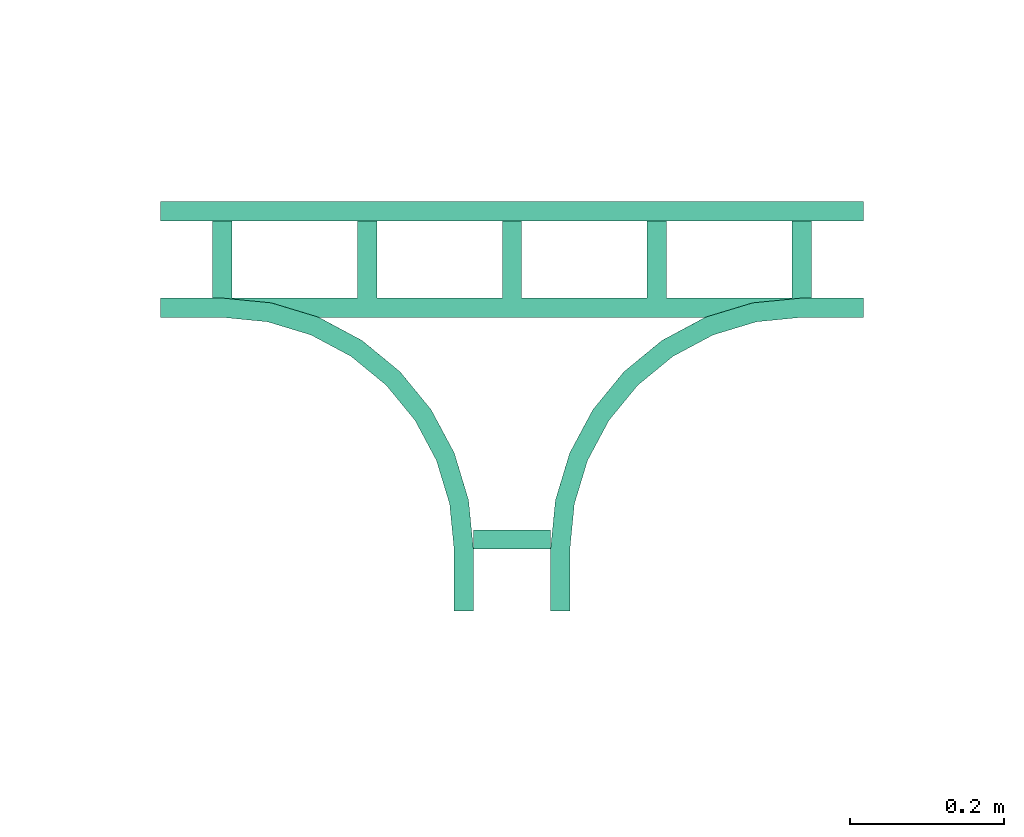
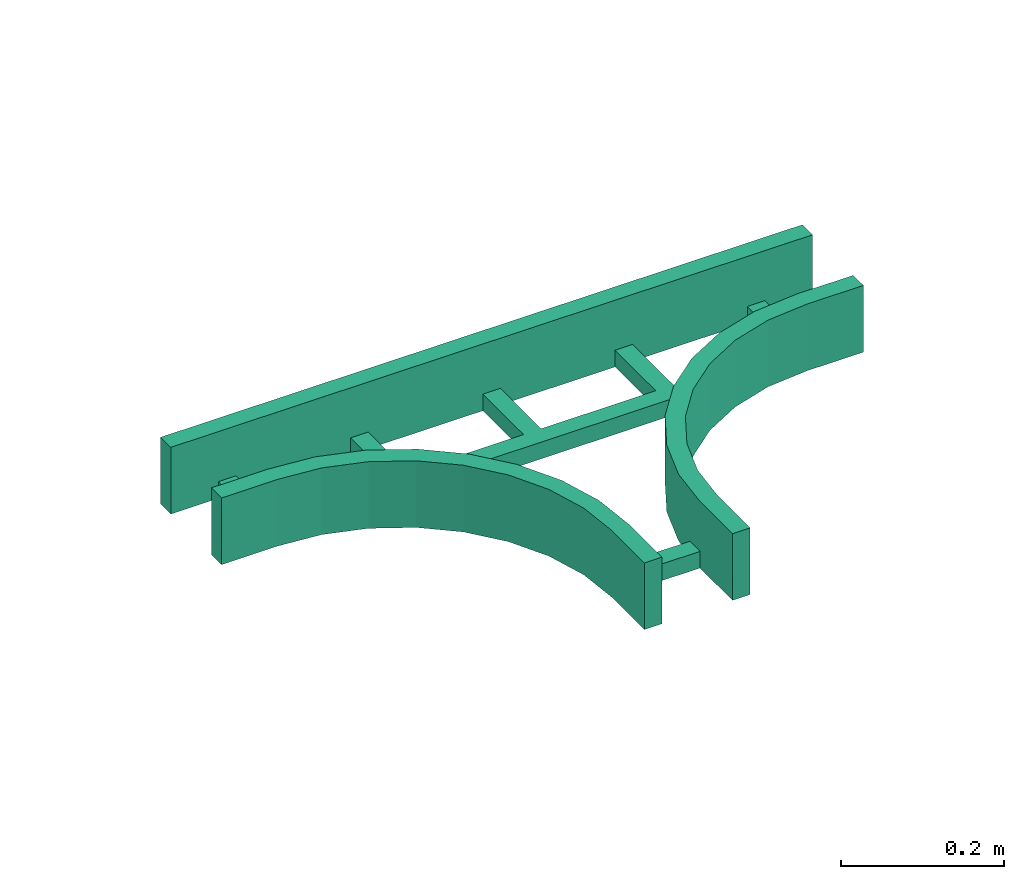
# One storey, part 9 of 11: 1 flow fitting.
"""IFC2X3 building model written with IfcOpenShell, lengths in millimetres."""

from ifc_helpers import new_model, entity, si_unit, converted_unit, derived_unit, direction, frame, origin, place, context, subcontext, project, spatial, faceted_brep, source, transform, mapped, type_object, type_shapes, element, save


model = new_model("IFC2X3")

# Units and contexts
model_context = context("Model", 3, precision=0.01, world=origin(), true_north=direction((6.12303176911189e-17, 1.0)))
body_context = subcontext(model_context, "Body", "Model", "MODEL_VIEW")
ifc_project = project(units=[si_unit("LENGTHUNIT", "METRE", prefix="MILLI"), si_unit("AREAUNIT", "SQUARE_METRE"), si_unit("VOLUMEUNIT", "CUBIC_METRE"), converted_unit("PLANEANGLEUNIT", "DEGREE", entity("IfcRatioMeasure", 0.0174532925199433), si_unit("PLANEANGLEUNIT", "RADIAN"), dimensions=[0, 0, 0, 0, 0, 0, 0]), si_unit("MASSUNIT", "GRAM", prefix="KILO"), si_unit("TIMEUNIT", "SECOND"), si_unit("FREQUENCYUNIT", "HERTZ"), si_unit("THERMODYNAMICTEMPERATUREUNIT", "KELVIN"), derived_unit("THERMALTRANSMITTANCEUNIT", [(si_unit("MASSUNIT", "GRAM", prefix="KILO"), 1), (si_unit("THERMODYNAMICTEMPERATUREUNIT", "KELVIN"), -1), (si_unit("TIMEUNIT", "SECOND"), -3)]), derived_unit("VOLUMETRICFLOWRATEUNIT", [(si_unit("LENGTHUNIT", "METRE"), 3), (si_unit("TIMEUNIT", "SECOND"), -1)]), si_unit("ELECTRICCURRENTUNIT", "AMPERE"), si_unit("ELECTRICVOLTAGEUNIT", "VOLT"), si_unit("POWERUNIT", "WATT")], contexts=[model_context])

# Site, building, storey
site_placement = place(None, origin())
site = spatial("IfcSite", under=ifc_project, at=site_placement, Name="Surface:5707", CompositionType="ELEMENT")
building_placement = place(site_placement, origin())
building = spatial("IfcBuilding", under=site, at=building_placement, CompositionType="ELEMENT")
storey_placement = place(building_placement, origin())
storey = spatial("IfcBuildingStorey", under=building, at=storey_placement, Name="00_begane grond", CompositionType="ELEMENT", Elevation=0.0)

# Flow fitting
cable_carrier_fitting_type = type_object("IfcCableCarrierFittingType", Name="T-stuk, radius_300 : 61_CTF_kabelgoot_open_Tsplitsing:T-stuk, radius_300", PredefinedType="NOTDEFINED")
shared_shape = source(origin(), body_context, "Body", "Brep", [
    faceted_brep([(505.0, 105.0, 25.0), (405.0, 105.0, 25.0), (405.0, 80.0, 25.0), (505.0, 80.0, 25.0)], [[[0, 1, 2, 3]]]),
    faceted_brep([(505.0, 105.0, 0.0), (505.0, 80.0, 0.0), (405.0, 80.0, 0.0), (405.0, 105.0, 0.0)], [[[0, 1, 2, 3]]]),
    faceted_brep([(405.0, 105.0, 25.0), (505.0, 105.0, 25.0), (505.0, 105.0, 0.0), (405.0, 105.0, 0.0)], [[[0, 1, 2, 3]]]),
    faceted_brep([(405.0, 80.0, 25.0), (405.0, 105.0, 25.0), (405.0, 105.0, 0.0), (405.0, 80.0, 0.0)], [[[0, 1, 2, 3]]]),
    faceted_brep([(505.0, 80.0, 25.0), (405.0, 80.0, 25.0), (405.0, 80.0, 0.0), (505.0, 80.0, 0.0)], [[[0, 1, 2, 3]]]),
    faceted_brep([(505.0, 105.0, 25.0), (505.0, 80.0, 25.0), (505.0, 80.0, 0.0), (505.0, 105.0, 0.0)], [[[0, 1, 2, 3]]]),
    faceted_brep([(842.500000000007, 505.0, 25.0), (817.500000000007, 505.0, 25.0), (817.500000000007, 405.0, 25.0), (842.500000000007, 405.0, 25.0)], [[[0, 1, 2, 3]]]),
    faceted_brep([(842.500000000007, 505.0, 0.0), (842.500000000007, 405.0, 0.0), (817.500000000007, 405.0, 0.0), (817.500000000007, 505.0, 0.0)], [[[0, 1, 2, 3]]]),
    faceted_brep([(817.500000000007, 505.0, 25.0), (842.500000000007, 505.0, 25.0), (842.500000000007, 505.0, 0.0), (817.500000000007, 505.0, 0.0)], [[[0, 1, 2, 3]]]),
    faceted_brep([(817.500000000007, 405.0, 25.0), (817.500000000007, 505.0, 25.0), (817.500000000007, 505.0, 0.0), (817.500000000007, 405.0, 0.0)], [[[0, 1, 2, 3]]]),
    faceted_brep([(842.500000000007, 405.0, 25.0), (817.500000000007, 405.0, 25.0), (817.500000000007, 405.0, 0.0), (842.500000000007, 405.0, 0.0)], [[[0, 1, 2, 3]]]),
    faceted_brep([(842.500000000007, 505.0, 25.0), (842.500000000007, 405.0, 25.0), (842.500000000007, 405.0, 0.0), (842.500000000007, 505.0, 0.0)], [[[0, 1, 2, 3]]]),
    faceted_brep([(655.0, 505.0, 25.0), (630.0, 505.0, 25.0), (630.0, 405.0, 25.0), (655.0, 405.0, 25.0)], [[[0, 1, 2, 3]]]),
    faceted_brep([(655.0, 505.0, 0.0), (655.0, 405.0, 0.0), (630.0, 405.0, 0.0), (630.0, 505.0, 0.0)], [[[0, 1, 2, 3]]]),
    faceted_brep([(630.0, 505.0, 25.0), (655.0, 505.0, 25.0), (655.0, 505.0, 0.0), (630.0, 505.0, 0.0)], [[[0, 1, 2, 3]]]),
    faceted_brep([(630.0, 405.0, 25.0), (630.0, 505.0, 25.0), (630.0, 505.0, 0.0), (630.0, 405.0, 0.0)], [[[0, 1, 2, 3]]]),
    faceted_brep([(655.0, 405.0, 25.0), (630.0, 405.0, 25.0), (630.0, 405.0, 0.0), (655.0, 405.0, 0.0)], [[[0, 1, 2, 3]]]),
    faceted_brep([(655.0, 505.0, 25.0), (655.0, 405.0, 25.0), (655.0, 405.0, 0.0), (655.0, 505.0, 0.0)], [[[0, 1, 2, 3]]]),
    faceted_brep([(467.500000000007, 505.0, 25.0), (442.500000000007, 505.0, 25.0), (442.500000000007, 405.0, 25.0), (467.500000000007, 405.0, 25.0)], [[[0, 1, 2, 3]]]),
    faceted_brep([(467.500000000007, 505.0, 0.0), (467.500000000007, 405.0, 0.0), (442.500000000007, 405.0, 0.0), (442.500000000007, 505.0, 0.0)], [[[0, 1, 2, 3]]]),
    faceted_brep([(442.500000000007, 505.0, 25.0), (467.500000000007, 505.0, 25.0), (467.500000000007, 505.0, 0.0), (442.500000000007, 505.0, 0.0)], [[[0, 1, 2, 3]]]),
    faceted_brep([(442.500000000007, 405.0, 25.0), (442.500000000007, 505.0, 25.0), (442.500000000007, 505.0, 0.0), (442.500000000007, 405.0, 0.0)], [[[0, 1, 2, 3]]]),
    faceted_brep([(467.500000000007, 405.0, 25.0), (442.500000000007, 405.0, 25.0), (442.500000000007, 405.0, 0.0), (467.500000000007, 405.0, 0.0)], [[[0, 1, 2, 3]]]),
    faceted_brep([(467.500000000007, 505.0, 25.0), (467.500000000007, 405.0, 25.0), (467.500000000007, 405.0, 0.0), (467.500000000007, 505.0, 0.0)], [[[0, 1, 2, 3]]]),
    faceted_brep([(280.0, 505.0, 25.0), (255.0, 505.0, 25.0), (255.0, 405.0, 25.0), (280.0, 405.0, 25.0)], [[[0, 1, 2, 3]]]),
    faceted_brep([(280.0, 505.0, 0.0), (280.0, 405.0, 0.0), (255.0, 405.0, 0.0), (255.0, 505.0, 0.0)], [[[0, 1, 2, 3]]]),
    faceted_brep([(255.0, 505.0, 25.0), (280.0, 505.0, 25.0), (280.0, 505.0, 0.0), (255.0, 505.0, 0.0)], [[[0, 1, 2, 3]]]),
    faceted_brep([(255.0, 405.0, 25.0), (255.0, 505.0, 25.0), (255.0, 505.0, 0.0), (255.0, 405.0, 0.0)], [[[0, 1, 2, 3]]]),
    faceted_brep([(280.0, 405.0, 25.0), (255.0, 405.0, 25.0), (255.0, 405.0, 0.0), (280.0, 405.0, 0.0)], [[[0, 1, 2, 3]]]),
    faceted_brep([(280.0, 505.0, 25.0), (280.0, 405.0, 25.0), (280.0, 405.0, 0.0), (280.0, 505.0, 0.0)], [[[0, 1, 2, 3]]]),
    faceted_brep([(92.5000000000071, 505.0, 25.0), (67.5000000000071, 505.0, 25.0), (67.5000000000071, 405.0, 25.0), (92.5000000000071, 405.0, 25.0)], [[[0, 1, 2, 3]]]),
    faceted_brep([(92.5000000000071, 505.0, 0.0), (92.5000000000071, 405.0, 0.0), (67.5000000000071, 405.0, 0.0), (67.5000000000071, 505.0, 0.0)], [[[0, 1, 2, 3]]]),
    faceted_brep([(67.5000000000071, 505.0, 25.0), (92.5000000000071, 505.0, 25.0), (92.5000000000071, 505.0, 0.0), (67.5000000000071, 505.0, 0.0)], [[[0, 1, 2, 3]]]),
    faceted_brep([(67.5000000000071, 405.0, 25.0), (67.5000000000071, 505.0, 25.0), (67.5000000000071, 505.0, 0.0), (67.5000000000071, 405.0, 0.0)], [[[0, 1, 2, 3]]]),
    faceted_brep([(92.5000000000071, 405.0, 25.0), (67.5000000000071, 405.0, 25.0), (67.5000000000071, 405.0, 0.0), (92.5000000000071, 405.0, 0.0)], [[[0, 1, 2, 3]]]),
    faceted_brep([(92.5000000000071, 505.0, 25.0), (92.5000000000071, 405.0, 25.0), (92.5000000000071, 405.0, 0.0), (92.5000000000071, 505.0, 0.0)], [[[0, 1, 2, 3]]]),
    faceted_brep([(910.0, 530.0, 100.0), (0.0, 530.0, 100.0), (0.0, 505.0, 100.0), (910.0, 505.0, 100.0)], [[[0, 1, 2, 3]]]),
    faceted_brep([(0.0, 530.0, 100.0), (910.0, 530.0, 100.0), (910.0, 530.0, 0.0), (0.0, 530.0, 0.0)], [[[0, 1, 2, 3]]]),
    faceted_brep([(0.0, 505.0, 100.0), (0.0, 530.0, 100.0), (0.0, 530.0, 0.0), (0.0, 505.0, 0.0)], [[[0, 1, 2, 3]]]),
    faceted_brep([(910.0, 505.0, 100.0), (0.0, 505.0, 100.0), (0.0, 505.0, 0.0), (910.0, 505.0, 0.0)], [[[0, 1, 2, 3]]]),
    faceted_brep([(910.0, 530.0, 100.0), (910.0, 505.0, 100.0), (910.0, 505.0, 0.0), (910.0, 530.0, 0.0)], [[[0, 1, 2, 3]]]),
    faceted_brep([(910.0, 530.0, 0.0), (910.0, 505.0, 0.0), (0.0, 505.0, 0.0), (0.0, 530.0, 0.0)], [[[0, 1, 2, 3]]]),
    faceted_brep([(80.0, 405.0, 100.0), (0.0, 405.0, 100.0), (0.0, 380.0, 100.0), (80.0, 380.0, 100.0), (138.527096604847, 374.235584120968, 100.0), (194.805029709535, 357.163859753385, 100.0), (246.671069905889, 329.440883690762, 100.0), (292.132034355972, 292.132034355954, 100.0), (329.440883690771, 246.671069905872, 100.0), (357.163859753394, 194.805029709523, 100.0), (374.235584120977, 138.527096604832, 100.0), (380.0, 80.0, 100.0), (380.0, 0.0, 100.0), (405.0, 0.0, 100.0), (405.0, 80.0, 100.0), (398.755216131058, 143.404354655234, 100.0), (380.260848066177, 204.372115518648, 100.0), (350.227623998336, 260.560325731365, 100.0), (309.809703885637, 309.809703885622, 100.0), (260.56032573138, 350.227623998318, 100.0), (204.372115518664, 380.260848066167, 100.0), (143.404354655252, 398.755216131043, 100.0)], [[[0, 1, 2, 3, 4, 5, 6, 7, 8, 9, 10, 11, 12, 13, 14, 15, 16, 17, 18, 19, 20, 21]]]),
    faceted_brep([(705.627884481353, 380.260848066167, 100.0), (649.439674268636, 350.227623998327, 100.0), (600.190296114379, 309.809703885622, 100.0), (559.77237600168, 260.560325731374, 100.0), (529.739151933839, 204.372115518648, 100.0), (511.244783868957, 143.404354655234, 100.0), (505.0, 80.0, 100.0), (505.0, 0.0, 100.0), (530.0, 0.0, 100.0), (530.0, 80.0, 100.0), (535.764415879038, 138.527096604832, 100.0), (552.836140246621, 194.805029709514, 100.0), (580.559116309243, 246.671069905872, 100.0), (617.867965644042, 292.132034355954, 100.0), (663.328930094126, 329.440883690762, 100.0), (715.194970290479, 357.163859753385, 100.0), (771.472903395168, 374.235584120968, 100.0), (830.0, 380.0, 100.0), (910.0, 380.0, 100.0), (910.0, 405.0, 100.0), (830.0, 405.0, 100.0), (766.595645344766, 398.755216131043, 100.0)], [[[0, 1, 2, 3, 4, 5, 6, 7, 8, 9, 10, 11, 12, 13, 14, 15, 16, 17, 18, 19, 20, 21]]]),
    faceted_brep([(405.0, 0.0, 0.0), (380.0, 0.0, 0.0), (380.0, 80.0, 0.0), (374.235584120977, 138.527096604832, 0.0), (357.163859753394, 194.805029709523, 0.0), (329.440883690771, 246.671069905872, 0.0), (292.132034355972, 292.132034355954, 0.0), (246.671069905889, 329.440883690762, 0.0), (194.805029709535, 357.163859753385, 0.0), (138.527096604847, 374.235584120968, 0.0), (80.0, 380.0, 0.0), (0.0, 380.0, 0.0), (0.0, 405.0, 0.0), (910.0, 405.0, 0.0), (910.0, 380.0, 0.0), (830.0, 380.0, 0.0), (771.472903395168, 374.235584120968, 0.0), (715.194970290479, 357.163859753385, 0.0), (663.328930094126, 329.440883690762, 0.0), (617.867965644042, 292.132034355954, 0.0), (580.559116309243, 246.671069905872, 0.0), (552.836140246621, 194.805029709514, 0.0), (535.764415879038, 138.527096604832, 0.0), (530.0, 80.0, 0.0), (530.0, 0.0, 0.0), (505.0, 0.0, 0.0), (505.0, 80.0, 0.0), (511.2226983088, 143.293221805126, 0.0), (529.652501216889, 204.162715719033, 0.0), (559.583665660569, 260.277580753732, 0.0), (599.87001976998, 309.488980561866, 0.0), (648.968855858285, 349.912439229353, 0.0), (705.0, 380.0, 0.0), (205.0, 380.0, 0.0), (261.031144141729, 349.912439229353, 0.0), (310.129980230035, 309.488980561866, 0.0), (350.416334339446, 260.277580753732, 0.0), (380.347498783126, 204.162715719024, 0.0), (398.777301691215, 143.293221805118, 0.0), (405.0, 80.0, 0.0)], [[[0, 1, 2, 3, 4, 5, 6, 7, 8, 9, 10, 11, 12, 13, 14, 15, 16, 17, 18, 19, 20, 21, 22, 23, 24, 25, 26, 27, 28, 29, 30, 31, 32, 33, 34, 35, 36, 37, 38, 39]]]),
    faceted_brep([(380.0, 0.0, 100.0), (380.0, 80.0, 100.0), (380.0, 80.0, 0.0), (380.0, 0.0, 0.0)], [[[0, 1, 2, 3]]]),
    faceted_brep([(405.0, 0.0, 100.0), (380.0, 0.0, 100.0), (380.0, 0.0, 0.0), (405.0, 0.0, 0.0)], [[[0, 1, 2, 3]]]),
    faceted_brep([(530.0, 0.0, 100.0), (505.0, 0.0, 100.0), (505.0, 0.0, 0.0), (530.0, 0.0, 0.0)], [[[0, 1, 2, 3]]]),
    faceted_brep([(405.0, 80.0, 100.0), (405.0, 0.0, 100.0), (405.0, 0.0, 0.0), (405.0, 80.0, 0.0)], [[[0, 1, 2, 3]]]),
    faceted_brep([(405.0, 80.0, 100.0), (405.0, 80.0, 0.0), (398.777301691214, 143.293221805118, 0.0)], [[[0, 1, 2]]]),
    faceted_brep([(398.755216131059, 143.404354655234, 100.0), (398.777301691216, 143.293221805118, 0.0), (380.347498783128, 204.162715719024, 0.0)], [[[0, 1, 2]]]),
    faceted_brep([(405.0, 80.0, 100.0), (398.777301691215, 143.293221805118, 0.0), (398.755216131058, 143.404354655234, 100.0)], [[[0, 1, 2]]]),
    faceted_brep([(380.260848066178, 204.372115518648, 100.0), (350.416334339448, 260.277580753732, 0.0), (350.227623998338, 260.560325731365, 100.0)], [[[0, 1, 2]]]),
    faceted_brep([(380.260848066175, 204.372115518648, 100.0), (398.755216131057, 143.404354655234, 100.0), (380.347498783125, 204.162715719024, 0.0)], [[[0, 1, 2]]]),
    faceted_brep([(350.227623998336, 260.560325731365, 100.0), (350.416334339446, 260.277580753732, 0.0), (310.129980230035, 309.488980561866, 0.0)], [[[0, 1, 2]]]),
    faceted_brep([(350.416334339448, 260.277580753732, 0.0), (380.260848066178, 204.372115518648, 100.0), (380.347498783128, 204.162715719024, 0.0)], [[[0, 1, 2]]]),
    faceted_brep([(310.129980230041, 309.488980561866, 0.0), (309.809703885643, 309.809703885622, 100.0), (350.227623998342, 260.560325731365, 100.0)], [[[0, 1, 2]]]),
    faceted_brep([(261.03114414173, 349.912439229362, 0.0), (205.0, 380.0, 25.0), (260.560325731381, 350.227623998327, 100.0)], [[[0, 1, 2]]]),
    faceted_brep([(205.0, 380.0, 25.0), (261.031144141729, 349.912439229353, 0.0), (205.0, 380.0, 0.0)], [[[0, 1, 2]]]),
    faceted_brep([(205.0, 380.0, 25.0), (143.737743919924, 398.688719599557, 25.0), (204.372115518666, 380.260848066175, 100.0)], [[[0, 1, 2]]]),
    faceted_brep([(143.404354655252, 398.755216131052, 100.0), (143.737743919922, 398.688719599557, 25.0), (80.0, 405.0, 25.0)], [[[0, 1, 2]]]),
    faceted_brep([(309.80970388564, 309.809703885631, 100.0), (261.031144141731, 349.912439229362, 0.0), (260.560325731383, 350.227623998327, 100.0)], [[[0, 1, 2]]]),
    faceted_brep([(204.372115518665, 380.260848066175, 100.0), (260.560325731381, 350.227623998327, 100.0), (205.0, 380.0, 25.0)], [[[0, 1, 2]]]),
    faceted_brep([(143.737743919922, 398.688719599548, 25.0), (143.404354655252, 398.755216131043, 100.0), (204.372115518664, 380.260848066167, 100.0)], [[[0, 1, 2]]]),
    faceted_brep([(80.0, 405.0, 25.0), (80.0, 405.0, 100.0), (143.404354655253, 398.755216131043, 100.0)], [[[0, 1, 2]]]),
    faceted_brep([(261.031144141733, 349.912439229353, 0.0), (309.809703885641, 309.809703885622, 100.0), (310.12998023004, 309.488980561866, 0.0)], [[[0, 1, 2]]]),
    faceted_brep([(830.0, 405.0, 100.0), (910.0, 405.0, 100.0), (910.0, 405.0, 0.0), (0.0, 405.0, 0.0), (0.0, 405.0, 100.0), (80.0, 405.0, 100.0), (80.0, 405.0, 25.0), (830.0, 405.0, 25.0)], [[[0, 1, 2, 3, 4, 5, 6, 7]]]),
    faceted_brep([(0.0, 380.0, 100.0), (0.0, 405.0, 100.0), (0.0, 405.0, 0.0), (0.0, 380.0, 0.0)], [[[0, 1, 2, 3]]]),
    faceted_brep([(80.0, 380.0, 100.0), (0.0, 380.0, 100.0), (0.0, 380.0, 0.0), (80.0, 380.0, 0.0), (80.0, 380.0, 25.0)], [[[0, 1, 2, 3, 4]]]),
    faceted_brep([(910.0, 380.0, 100.0), (830.0, 380.0, 100.0), (830.0, 380.0, 25.0), (830.0, 380.0, 0.0), (910.0, 380.0, 0.0)], [[[0, 1, 2, 3, 4]]]),
    faceted_brep([(705.0, 380.0, 25.0), (205.0, 380.0, 25.0), (205.0, 380.0, 0.0), (705.0, 380.0, 0.0)], [[[0, 1, 2, 3]]]),
    faceted_brep([(138.527096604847, 374.235584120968, 100.0), (80.0, 380.0, 100.0), (80.0, 380.0, 25.0), (80.0, 380.0, 0.0), (138.527096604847, 374.235584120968, 0.0)], [[[0, 1, 2, 3, 4]]]),
    faceted_brep([(138.527096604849, 374.235584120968, 0.0), (194.805029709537, 357.163859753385, 0.0), (194.805029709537, 357.163859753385, 100.0), (138.527096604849, 374.235584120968, 100.0)], [[[0, 1, 2, 3]]]),
    faceted_brep([(194.805029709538, 357.163859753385, 100.0), (194.805029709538, 357.163859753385, 0.0), (246.671069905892, 329.440883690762, 0.0), (246.671069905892, 329.440883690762, 100.0)], [[[0, 1, 2, 3]]]),
    faceted_brep([(246.671069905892, 329.440883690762, 0.0), (292.132034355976, 292.132034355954, 0.0), (292.132034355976, 292.132034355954, 100.0), (246.671069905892, 329.440883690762, 100.0)], [[[0, 1, 2, 3]]]),
    faceted_brep([(329.440883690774, 246.671069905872, 100.0), (292.132034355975, 292.132034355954, 100.0), (292.132034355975, 292.132034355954, 0.0), (329.440883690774, 246.671069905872, 0.0)], [[[0, 1, 2, 3]]]),
    faceted_brep([(374.235584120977, 138.527096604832, 100.0), (357.163859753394, 194.805029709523, 100.0), (357.163859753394, 194.805029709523, 0.0), (374.235584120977, 138.527096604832, 0.0)], [[[0, 1, 2, 3]]]),
    faceted_brep([(329.440883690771, 246.671069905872, 100.0), (329.440883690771, 246.671069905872, 0.0), (357.163859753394, 194.805029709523, 0.0), (357.163859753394, 194.805029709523, 100.0)], [[[0, 1, 2, 3]]]),
    faceted_brep([(374.235584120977, 138.527096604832, 100.0), (374.235584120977, 138.527096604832, 0.0), (380.0, 80.0, 0.0), (380.0, 80.0, 100.0)], [[[0, 1, 2, 3]]]),
    faceted_brep([(535.764415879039, 138.527096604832, 100.0), (530.0, 80.0, 100.0), (530.0, 80.0, 0.0), (535.764415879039, 138.527096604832, 0.0)], [[[0, 1, 2, 3]]]),
    faceted_brep([(552.836140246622, 194.805029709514, 0.0), (552.836140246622, 194.805029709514, 100.0), (535.764415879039, 138.527096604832, 100.0), (535.764415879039, 138.527096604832, 0.0)], [[[0, 1, 2, 3]]]),
    faceted_brep([(552.836140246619, 194.805029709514, 100.0), (552.836140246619, 194.805029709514, 0.0), (580.559116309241, 246.671069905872, 0.0), (580.559116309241, 246.671069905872, 100.0)], [[[0, 1, 2, 3]]]),
    faceted_brep([(617.867965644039, 292.132034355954, 100.0), (580.55911630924, 246.671069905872, 100.0), (580.55911630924, 246.671069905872, 0.0), (617.867965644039, 292.132034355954, 0.0)], [[[0, 1, 2, 3]]]),
    faceted_brep([(663.328930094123, 329.440883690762, 100.0), (617.867965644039, 292.132034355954, 100.0), (617.867965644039, 292.132034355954, 0.0), (663.328930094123, 329.440883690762, 0.0)], [[[0, 1, 2, 3]]]),
    faceted_brep([(771.472903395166, 374.235584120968, 100.0), (715.194970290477, 357.163859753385, 100.0), (715.194970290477, 357.163859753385, 0.0), (771.472903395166, 374.235584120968, 0.0)], [[[0, 1, 2, 3]]]),
    faceted_brep([(663.328930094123, 329.440883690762, 100.0), (663.328930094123, 329.440883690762, 0.0), (715.194970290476, 357.163859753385, 0.0), (715.194970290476, 357.163859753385, 100.0)], [[[0, 1, 2, 3]]]),
    faceted_brep([(771.472903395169, 374.235584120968, 100.0), (771.472903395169, 374.235584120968, 0.0), (830.0, 380.0, 0.0), (830.0, 380.0, 25.0), (830.0, 380.0, 100.0)], [[[0, 1, 2, 3, 4]]]),
    faceted_brep([(910.0, 405.0, 100.0), (910.0, 380.0, 100.0), (910.0, 380.0, 0.0), (910.0, 405.0, 0.0)], [[[0, 1, 2, 3]]]),
    faceted_brep([(830.0, 405.0, 25.0), (766.262256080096, 398.688719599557, 25.0), (766.595645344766, 398.755216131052, 100.0)], [[[0, 1, 2]]]),
    faceted_brep([(705.0, 380.0, 25.0), (705.0, 380.0, 0.0), (648.968855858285, 349.912439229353, 0.0)], [[[0, 1, 2]]]),
    faceted_brep([(830.0, 405.0, 100.0), (830.0, 405.0, 25.0), (766.595645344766, 398.755216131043, 100.0)], [[[0, 1, 2]]]),
    faceted_brep([(705.627884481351, 380.260848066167, 100.0), (705.0, 380.0, 25.0), (649.439674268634, 350.227623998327, 100.0)], [[[0, 1, 2]]]),
    faceted_brep([(705.627884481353, 380.260848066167, 100.0), (766.595645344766, 398.755216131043, 100.0), (766.262256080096, 398.688719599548, 25.0)], [[[0, 1, 2]]]),
    faceted_brep([(649.439674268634, 350.227623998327, 100.0), (705.0, 380.0, 25.0), (648.968855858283, 349.912439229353, 0.0)], [[[0, 1, 2]]]),
    faceted_brep([(705.0, 380.0, 25.0), (705.627884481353, 380.260848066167, 100.0), (766.262256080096, 398.688719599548, 25.0)], [[[0, 1, 2]]]),
    faceted_brep([(648.968855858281, 349.912439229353, 0.0), (600.190296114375, 309.809703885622, 100.0), (649.439674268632, 350.227623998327, 100.0)], [[[0, 1, 2]]]),
    faceted_brep([(559.772376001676, 260.560325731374, 100.0), (599.870019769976, 309.488980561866, 0.0), (559.583665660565, 260.277580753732, 0.0)], [[[0, 1, 2]]]),
    faceted_brep([(511.244783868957, 143.404354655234, 100.0), (529.652501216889, 204.162715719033, 0.0), (511.2226983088, 143.293221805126, 0.0)], [[[0, 1, 2]]]),
    faceted_brep([(559.583665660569, 260.277580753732, 0.0), (529.652501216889, 204.162715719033, 0.0), (529.739151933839, 204.372115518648, 100.0)], [[[0, 1, 2]]]),
    faceted_brep([(505.0, 80.0, 100.0), (511.2226983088, 143.293221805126, 0.0), (505.0, 80.0, 0.0)], [[[0, 1, 2]]]),
    faceted_brep([(600.190296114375, 309.809703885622, 100.0), (599.870019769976, 309.488980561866, 0.0), (559.772376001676, 260.560325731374, 100.0)], [[[0, 1, 2]]]),
    faceted_brep([(529.739151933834, 204.372115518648, 100.0), (559.772376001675, 260.560325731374, 100.0), (559.583665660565, 260.277580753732, 0.0)], [[[0, 1, 2]]]),
    faceted_brep([(529.652501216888, 204.162715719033, 0.0), (511.244783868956, 143.404354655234, 100.0), (529.739151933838, 204.372115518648, 100.0)], [[[0, 1, 2]]]),
    faceted_brep([(511.2226983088, 143.293221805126, 0.0), (505.0, 80.0, 100.0), (511.244783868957, 143.404354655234, 100.0)], [[[0, 1, 2]]]),
    faceted_brep([(599.870019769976, 309.488980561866, 0.0), (600.190296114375, 309.809703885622, 100.0), (648.968855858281, 349.912439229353, 0.0)], [[[0, 1, 2]]]),
    faceted_brep([(505.0, 0.0, 100.0), (505.0, 80.0, 100.0), (505.0, 80.0, 0.0), (505.0, 0.0, 0.0)], [[[0, 1, 2, 3]]]),
    faceted_brep([(530.0, 80.0, 100.0), (530.0, 0.0, 100.0), (530.0, 0.0, 0.0), (530.0, 80.0, 0.0)], [[[0, 1, 2, 3]]]),
    faceted_brep([(766.262256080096, 398.688719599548, 25.0), (830.0, 405.0, 25.0), (80.0, 405.0, 25.0), (143.737743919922, 398.688719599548, 25.0), (205.0, 380.0, 25.0), (705.0, 380.0, 25.0)], [[[0, 1, 2, 3, 4, 5]]]),
])
type_shapes(cable_carrier_fitting_type, [shared_shape])
flow_fitting_placement = place(storey_placement, frame((941.10926164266, -45645.8848319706, -50.0)))
element("IfcFlowFitting", 1, at=flow_fitting_placement, inside=storey, type_object=cable_carrier_fitting_type, Name="61_CTF_kabelgoot_open_Tsplitsing:T-stuk, radius_300:T-stuk, radius_300 : 61_CTF_kabelgoot_open_Tsplitsing:T-stuk, radius_300:4593", ObjectType="T-stuk, radius_300 : 61_CTF_kabelgoot_open_Tsplitsing:T-stuk, radius_300", context=body_context, shape_type="MappedRepresentation", body=[
    mapped(shared_shape, transform((0.0, 0.0, 0.0), scale=1.0)),
])

save(model, "model.ifc")
